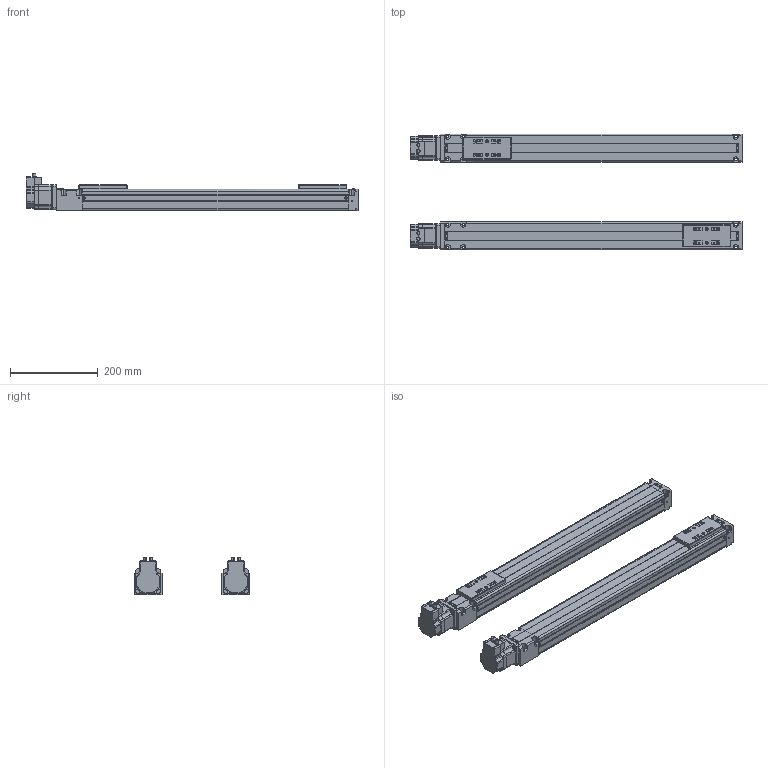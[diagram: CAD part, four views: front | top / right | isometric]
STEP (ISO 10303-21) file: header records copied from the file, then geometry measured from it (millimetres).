
FILE_DESCRIPTION(('STEP AP214'),'1');
FILE_NAME('Z:\外形図\3D DAD2\SCLT6_B\tmp0.step',' ',(' '),(' '),'XStep 1.0',' ',' ');
FILE_SCHEMA(('automotive_design'));
Length unit declared in the file: millimetre
Products named in the file (20): VLAST60-06-0500-0-0N (0) (500)|_VLA-ST-60-12-0500 Body;_VLA-ST-60-12-0500 Body; VLAST60-06-0500-0-0N (0) (500)|_VLA-ST-60-12-0050 Slider;_VLA-ST-60-12-0050 Slider; 4; 9; 1; 2; 12; 3; 8; 6; 10; 7; 5; 11
Bounding box: 756 x 264 x 85.99 mm (x, y, z)
Volume: 1630875.2 mm3; surface area: 805156.2 mm2
Topology: 20 solids, 20 shells, 1734 faces, 4534 edges, 2856 vertices
Faces by surface type: plane 996, cylinder 448, cone 204, bspline 78, sphere 8
Entity records: 69423 total; most frequent: CARTESIAN_POINT 11786, ORIENTED_EDGE 9020, DIRECTION 8974, EDGE_CURVE 4510, LINE 3214, VECTOR 3214, AXIS2_PLACEMENT_3D 2880, VERTEX_POINT 2856
